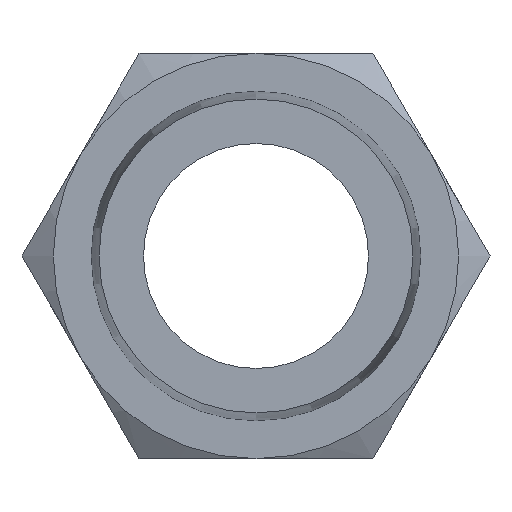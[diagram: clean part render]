
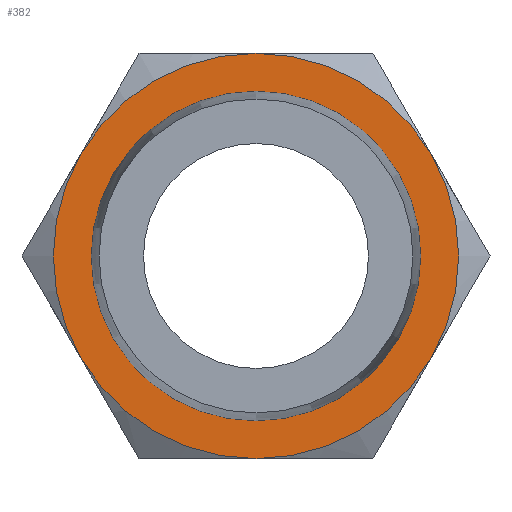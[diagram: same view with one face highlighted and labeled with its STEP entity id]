
A CAD part, left-side view. The second image highlights one B-rep face of the part: STEP entity #382.
In plain terms, the highlighted planar face has unit normal (-1, 0, 0).
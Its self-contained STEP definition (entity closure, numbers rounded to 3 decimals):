
#55=FACE_BOUND('',#116,.T.);
#63=PLANE('',#449);
#88=FACE_OUTER_BOUND('',#115,.T.);
#115=EDGE_LOOP('',(#332,#333,#334,#335,#336,#337));
#116=EDGE_LOOP('',(#338,#339));
#147=CIRCLE('',#419,8.539);
#148=CIRCLE('',#420,8.539);
#149=CIRCLE('',#422,10.5);
#150=CIRCLE('',#424,10.5);
#151=CIRCLE('',#426,10.5);
#152=CIRCLE('',#428,10.5);
#153=CIRCLE('',#430,10.5);
#154=CIRCLE('',#432,10.5);
#169=VERTEX_POINT('',#582);
#170=VERTEX_POINT('',#584);
#171=VERTEX_POINT('',#588);
#173=VERTEX_POINT('',#593);
#175=VERTEX_POINT('',#600);
#176=VERTEX_POINT('',#609);
#179=VERTEX_POINT('',#620);
#180=VERTEX_POINT('',#629);
#206=EDGE_CURVE('',#170,#169,#147,.T.);
#207=EDGE_CURVE('',#169,#170,#148,.T.);
#209=EDGE_CURVE('',#173,#171,#149,.T.);
#213=EDGE_CURVE('',#175,#173,#150,.T.);
#215=EDGE_CURVE('',#171,#176,#151,.T.);
#219=EDGE_CURVE('',#179,#175,#152,.T.);
#221=EDGE_CURVE('',#176,#180,#153,.T.);
#225=EDGE_CURVE('',#180,#179,#154,.T.);
#332=ORIENTED_EDGE('',*,*,#209,.T.);
#333=ORIENTED_EDGE('',*,*,#215,.T.);
#334=ORIENTED_EDGE('',*,*,#221,.T.);
#335=ORIENTED_EDGE('',*,*,#225,.T.);
#336=ORIENTED_EDGE('',*,*,#219,.T.);
#337=ORIENTED_EDGE('',*,*,#213,.T.);
#338=ORIENTED_EDGE('',*,*,#206,.T.);
#339=ORIENTED_EDGE('',*,*,#207,.T.);
#382=ADVANCED_FACE('',(#88,#55),#63,.F.);
#419=AXIS2_PLACEMENT_3D('',#585,#484,#485);
#420=AXIS2_PLACEMENT_3D('',#586,#486,#487);
#422=AXIS2_PLACEMENT_3D('',#594,#490,#491);
#424=AXIS2_PLACEMENT_3D('',#607,#494,#495);
#426=AXIS2_PLACEMENT_3D('',#614,#498,#499);
#428=AXIS2_PLACEMENT_3D('',#627,#502,#503);
#430=AXIS2_PLACEMENT_3D('',#634,#506,#507);
#432=AXIS2_PLACEMENT_3D('',#646,#510,#511);
#449=AXIS2_PLACEMENT_3D('',#716,#549,#550);
#484=DIRECTION('center_axis',(1.,0.,0.));
#485=DIRECTION('ref_axis',(0.,0.,-1.));
#486=DIRECTION('center_axis',(1.,0.,0.));
#487=DIRECTION('ref_axis',(0.,0.,-1.));
#490=DIRECTION('center_axis',(-1.,0.,0.));
#491=DIRECTION('ref_axis',(0.,1.,0.));
#494=DIRECTION('center_axis',(-1.,0.,0.));
#495=DIRECTION('ref_axis',(0.,1.,0.));
#498=DIRECTION('center_axis',(-1.,0.,0.));
#499=DIRECTION('ref_axis',(0.,1.,0.));
#502=DIRECTION('center_axis',(-1.,0.,0.));
#503=DIRECTION('ref_axis',(0.,1.,0.));
#506=DIRECTION('center_axis',(-1.,0.,0.));
#507=DIRECTION('ref_axis',(0.,1.,0.));
#510=DIRECTION('center_axis',(-1.,0.,0.));
#511=DIRECTION('ref_axis',(0.,1.,0.));
#549=DIRECTION('center_axis',(1.,0.,0.));
#550=DIRECTION('ref_axis',(0.,0.,-1.));
#582=CARTESIAN_POINT('',(-5.,0.,8.539));
#584=CARTESIAN_POINT('',(-5.,0.,-8.539));
#585=CARTESIAN_POINT('Origin',(-5.,0.,0.));
#586=CARTESIAN_POINT('Origin',(-5.,0.,0.));
#588=CARTESIAN_POINT('',(-5.,0.,10.5));
#593=CARTESIAN_POINT('',(-5.,-9.093,5.25));
#594=CARTESIAN_POINT('Origin',(-5.,0.,0.));
#600=CARTESIAN_POINT('',(-5.,-9.093,-5.25));
#607=CARTESIAN_POINT('Origin',(-5.,0.,0.));
#609=CARTESIAN_POINT('',(-5.,9.093,5.25));
#614=CARTESIAN_POINT('Origin',(-5.,0.,0.));
#620=CARTESIAN_POINT('',(-5.,0.,-10.5));
#627=CARTESIAN_POINT('Origin',(-5.,0.,0.));
#629=CARTESIAN_POINT('',(-5.,9.093,-5.25));
#634=CARTESIAN_POINT('Origin',(-5.,0.,0.));
#646=CARTESIAN_POINT('Origin',(-5.,0.,0.));
#716=CARTESIAN_POINT('Origin',(-5.,0.,0.));
